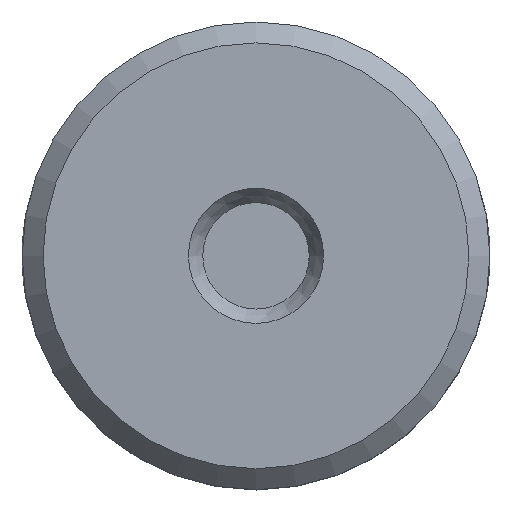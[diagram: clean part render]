
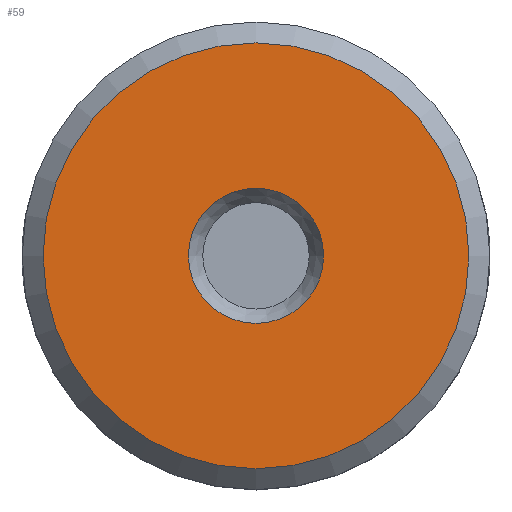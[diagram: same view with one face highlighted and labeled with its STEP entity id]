
A CAD part, top view. The second image highlights one B-rep face of the part: STEP entity #59.
In plain terms, the highlighted planar face has unit normal (0, 0, 1).
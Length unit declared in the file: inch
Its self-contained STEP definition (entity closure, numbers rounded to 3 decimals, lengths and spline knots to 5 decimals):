
#49=FACE_BOUND('',#77,.T.);
#50=FACE_BOUND('',#78,.T.);
#59=ADVANCED_FACE('',(#49,#50),#64,.T.);
#64=PLANE('',#132);
#77=EDGE_LOOP('',(#93));
#78=EDGE_LOOP('',(#94));
#93=ORIENTED_EDGE('',*,*,#114,.T.);
#94=ORIENTED_EDGE('',*,*,#113,.F.);
#105=VERTEX_POINT('',#296);
#106=VERTEX_POINT('',#299);
#113=EDGE_CURVE('',#105,#105,#119,.T.);
#114=EDGE_CURVE('',#106,#106,#120,.T.);
#119=CIRCLE('',#129,0.22685);
#120=CIRCLE('',#131,0.07201);
#129=AXIS2_PLACEMENT_3D('',#295,#151,#152);
#131=AXIS2_PLACEMENT_3D('',#298,#155,#156);
#132=AXIS2_PLACEMENT_3D('',#300,#157,#158);
#151=DIRECTION('',(0.,0.,-1.));
#152=DIRECTION('',(-1.,0.,0.));
#155=DIRECTION('',(0.,0.,-1.));
#156=DIRECTION('',(-1.,0.,0.));
#157=DIRECTION('',(0.,0.,1.));
#158=DIRECTION('',(1.,0.,0.));
#295=CARTESIAN_POINT('',(0.,0.,0.22287));
#296=CARTESIAN_POINT('',(-0.22685,0.,0.22287));
#298=CARTESIAN_POINT('',(0.,0.,0.22287));
#299=CARTESIAN_POINT('',(-0.07201,0.,0.22287));
#300=CARTESIAN_POINT('',(0.22685,0.,0.22287));
